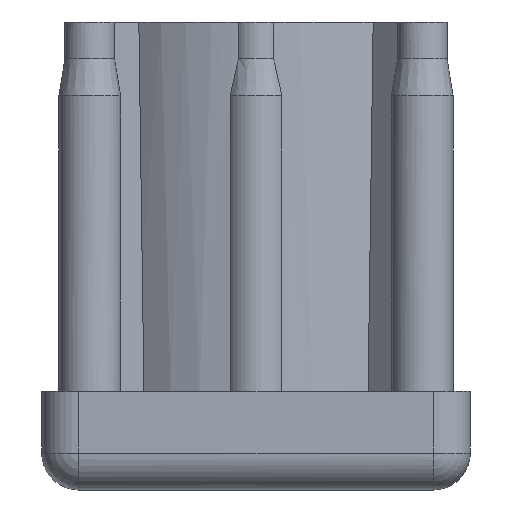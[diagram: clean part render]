
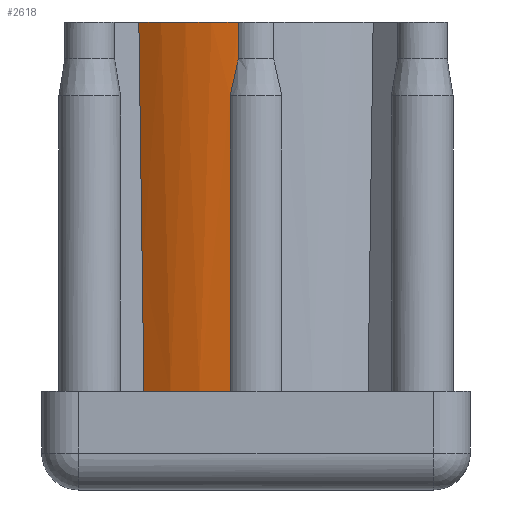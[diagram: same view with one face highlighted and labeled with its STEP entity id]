
A CAD part, front view. The second image highlights one B-rep face of the part: STEP entity #2618.
In plain terms, the highlighted cylindrical face has radius 15 mm (diameter 30 mm), a partial arc.
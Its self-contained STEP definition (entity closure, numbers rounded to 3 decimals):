
#50 = DIRECTION ( 'NONE',  ( 0., 0., 1. ) ) ;
#138 = EDGE_CURVE ( 'NONE', #480, #1509, #3693, .T. ) ;
#182 = VERTEX_POINT ( 'NONE', #2721 ) ;
#275 = VERTEX_POINT ( 'NONE', #2273 ) ;
#276 = AXIS2_PLACEMENT_3D ( 'NONE', #2473, #756, #3334 ) ;
#344 = CARTESIAN_POINT ( 'NONE',  ( -2.103, -14.852, 31.25 ) ) ;
#480 = VERTEX_POINT ( 'NONE', #2080 ) ;
#499 = CARTESIAN_POINT ( 'NONE',  ( 0., 0., 37.25 ) ) ;
#569 = CIRCLE ( 'NONE', #2867, 15. ) ;
#676 = EDGE_CURVE ( 'NONE', #1179, #182, #2942, .T. ) ;
#684 = DIRECTION ( 'NONE',  ( 0.707, -0.707, 0.017 ) ) ;
#695 = ORIENTED_EDGE ( 'NONE', *, *, #1727, .T. ) ;
#715 = CARTESIAN_POINT ( 'NONE',  ( -2.103, -14.852, 31.25 ) ) ;
#751 = DIRECTION ( 'NONE',  ( 1., 0., 0. ) ) ;
#756 = DIRECTION ( 'NONE',  ( 0., 0., 1. ) ) ;
#946 = CARTESIAN_POINT ( 'NONE',  ( 34110.396, 34110.363, 120.499 ) ) ;
#972 = DIRECTION ( 'NONE',  ( -0.707, -0.707, -0.002 ) ) ;
#1028 = CARTESIAN_POINT ( 'NONE',  ( -9.098, -11.926, 7.25 ) ) ;
#1064 = ORIENTED_EDGE ( 'NONE', *, *, #2009, .T. ) ;
#1179 = VERTEX_POINT ( 'NONE', #344 ) ;
#1245 = ORIENTED_EDGE ( 'NONE', *, *, #138, .F. ) ;
#1268 = CIRCLE ( 'NONE', #2621, 48254.36 ) ;
#1281 = CARTESIAN_POINT ( 'NONE',  ( -1.856, -14.887, 32.442 ) ) ;
#1509 = VERTEX_POINT ( 'NONE', #3325 ) ;
#1552 = CARTESIAN_POINT ( 'NONE',  ( -1.632, -14.912, 33.442 ) ) ;
#1604 = ORIENTED_EDGE ( 'NONE', *, *, #2750, .T. ) ;
#1619 = DIRECTION ( 'NONE',  ( -1., 0., 0. ) ) ;
#1660 = ORIENTED_EDGE ( 'NONE', *, *, #2395, .T. ) ;
#1665 = CYLINDRICAL_SURFACE ( 'NONE', #3301, 15. ) ;
#1670 = DIRECTION ( 'NONE',  ( 0., 0., 1. ) ) ;
#1727 = EDGE_CURVE ( 'NONE', #275, #1179, #2895, .T. ) ;
#1752 = CARTESIAN_POINT ( 'NONE',  ( -2.103, -14.852, 22.25 ) ) ;
#2009 = EDGE_CURVE ( 'NONE', #182, #1509, #2983, .T. ) ;
#2017 = EDGE_LOOP ( 'NONE', ( #1245, #1660, #1604, #695, #2167, #1064 ) ) ;
#2080 = CARTESIAN_POINT ( 'NONE',  ( -9.511, -11.599, 37.25 ) ) ;
#2156 = VECTOR ( 'NONE', #50, 1000. ) ;
#2167 = ORIENTED_EDGE ( 'NONE', *, *, #676, .T. ) ;
#2273 = CARTESIAN_POINT ( 'NONE',  ( -2.103, -14.852, 7.25 ) ) ;
#2387 = CARTESIAN_POINT ( 'NONE',  ( -1.432, -14.931, 34.25 ) ) ;
#2395 = EDGE_CURVE ( 'NONE', #480, #2954, #1268, .T. ) ;
#2473 = CARTESIAN_POINT ( 'NONE',  ( 0., 0., 37.25 ) ) ;
#2618 = ADVANCED_FACE ( 'NONE', ( #3481 ), #1665, .T. ) ;
#2621 = AXIS2_PLACEMENT_3D ( 'NONE', #946, #684, #972 ) ;
#2721 = CARTESIAN_POINT ( 'NONE',  ( -1.432, -14.931, 34.25 ) ) ;
#2750 = EDGE_CURVE ( 'NONE', #2954, #275, #569, .T. ) ;
#2760 = DIRECTION ( 'NONE',  ( 0., 0., 1. ) ) ;
#2867 = AXIS2_PLACEMENT_3D ( 'NONE', #3355, #1670, #751 ) ;
#2895 = LINE ( 'NONE', #1752, #2156 ) ;
#2942 = B_SPLINE_CURVE_WITH_KNOTS ( 'NONE', 3,
 ( #715, #1281, #1552, #2387 ),
 .UNSPECIFIED., .F., .F.,
 ( 4, 4 ),
 ( 0., 1. ),
 .UNSPECIFIED. ) ;
#2954 = VERTEX_POINT ( 'NONE', #1028 ) ;
#2983 = LINE ( 'NONE', #3244, #3628 ) ;
#3244 = CARTESIAN_POINT ( 'NONE',  ( -1.432, -14.931, 35.75 ) ) ;
#3301 = AXIS2_PLACEMENT_3D ( 'NONE', #499, #2760, #1619 ) ;
#3325 = CARTESIAN_POINT ( 'NONE',  ( -1.432, -14.931, 37.25 ) ) ;
#3334 = DIRECTION ( 'NONE',  ( 1., 0., 0. ) ) ;
#3355 = CARTESIAN_POINT ( 'NONE',  ( 0., 0., 7.25 ) ) ;
#3481 = FACE_OUTER_BOUND ( 'NONE', #2017, .T. ) ;
#3584 = DIRECTION ( 'NONE',  ( 0., 0., 1. ) ) ;
#3628 = VECTOR ( 'NONE', #3584, 1000. ) ;
#3693 = CIRCLE ( 'NONE', #276, 15. ) ;
